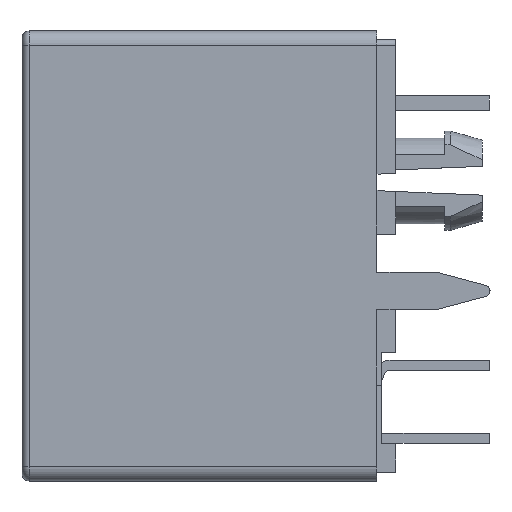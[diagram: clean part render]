
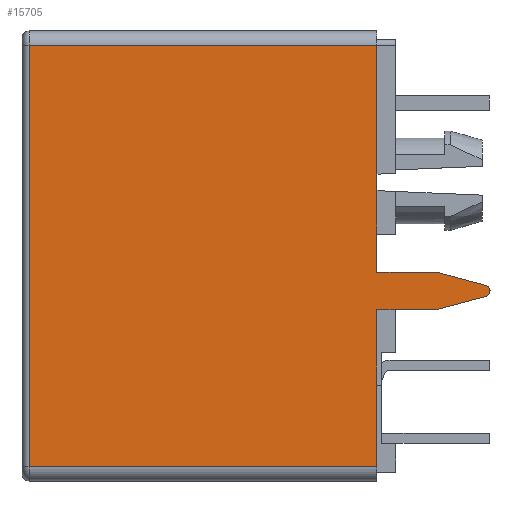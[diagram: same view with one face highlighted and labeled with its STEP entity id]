
A CAD part, left-side view. The second image highlights one B-rep face of the part: STEP entity #15705.
In plain terms, the highlighted planar face has unit normal (-1, 0, 0).
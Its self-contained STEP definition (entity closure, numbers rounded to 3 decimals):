
#1800=DIRECTION('',(0.,0.,-1.));
#1801=VECTOR('',#1800,14.6);
#1802=CARTESIAN_POINT('',(-6.465,5.842,23.25));
#1803=LINE('',#1802,#1801);
#1827=DIRECTION('',(0.,-1.,0.));
#1828=VECTOR('',#1827,12.05);
#1829=CARTESIAN_POINT('',(-6.465,5.842,8.65));
#1830=LINE('',#1829,#1828);
#1835=DIRECTION('',(0.,-0.966,-0.259));
#1836=VECTOR('',#1835,1.765);
#1837=CARTESIAN_POINT('',(-6.465,-8.278,
15.39));
#1838=LINE('',#1837,#1836);
#1839=DIRECTION('',(0.,0.966,-0.259));
#1840=VECTOR('',#1839,1.765);
#1841=CARTESIAN_POINT('',(-6.465,-9.983,
14.547));
#1842=LINE('',#1841,#1840);
#1847=DIRECTION('',(0.,1.,0.));
#1848=VECTOR('',#1847,12.05);
#1849=CARTESIAN_POINT('',(-6.465,-6.208,
23.25));
#1850=LINE('',#1849,#1848);
#1907=DIRECTION('',(0.,0.,-1.));
#1908=VECTOR('',#1907,5.44);
#1909=CARTESIAN_POINT('',(-6.465,-6.208,
14.09));
#1910=LINE('',#1909,#1908);
#1923=DIRECTION('',(0.,1.,0.));
#1924=VECTOR('',#1923,2.07);
#1925=CARTESIAN_POINT('',(-6.465,-8.278,
15.39));
#1926=LINE('',#1925,#1924);
#1939=DIRECTION('',(0.,0.,-1.));
#1940=VECTOR('',#1939,7.86);
#1941=CARTESIAN_POINT('',(-6.465,-6.208,
23.25));
#1942=LINE('',#1941,#1940);
#9481=CARTESIAN_POINT('',(-6.465,-9.931,
14.74));
#9482=DIRECTION('',(-1.,0.,0.));
#9483=DIRECTION('',(0.,-0.259,-0.966));
#9484=AXIS2_PLACEMENT_3D('',#9481,#9482,#9483);
#9511=DIRECTION('',(0.,-1.,0.));
#9512=VECTOR('',#9511,2.07);
#9513=CARTESIAN_POINT('',(-6.465,-6.208,
14.09));
#9514=LINE('',#9513,#9512);
#10265=CARTESIAN_POINT('',(-6.465,-8.278,
15.39));
#10266=CARTESIAN_POINT('',(-6.465,-9.983,
14.933));
#10267=VERTEX_POINT('',#10265);
#10268=VERTEX_POINT('',#10266);
#10269=CARTESIAN_POINT('',(-6.465,-6.208,
23.25));
#10270=CARTESIAN_POINT('',(-6.465,5.842,
23.25));
#10271=VERTEX_POINT('',#10269);
#10272=VERTEX_POINT('',#10270);
#10273=CARTESIAN_POINT('',(-6.465,5.842,
8.65));
#10274=VERTEX_POINT('',#10273);
#10275=CARTESIAN_POINT('',(-6.465,-6.208,
8.65));
#10276=VERTEX_POINT('',#10275);
#10277=CARTESIAN_POINT('',(-6.465,-6.208,
14.09));
#10278=VERTEX_POINT('',#10277);
#10279=CARTESIAN_POINT('',(-6.465,-8.278,
14.09));
#10280=VERTEX_POINT('',#10279);
#10281=CARTESIAN_POINT('',(-6.465,-9.983,
14.547));
#10282=VERTEX_POINT('',#10281);
#10283=CARTESIAN_POINT('',(-6.465,-6.208,
15.39));
#10284=VERTEX_POINT('',#10283);
#15680=CARTESIAN_POINT('',(-6.465,-2.145,
15.95));
#15681=DIRECTION('',(1.,0.,0.));
#15682=DIRECTION('',(0.,-1.,0.));
#15683=AXIS2_PLACEMENT_3D('',#15680,#15681,#15682);
#15684=PLANE('',#15683);
#15686=ORIENTED_EDGE('',*,*,#15685,.F.);
#15688=ORIENTED_EDGE('',*,*,#15687,.T.);
#15690=ORIENTED_EDGE('',*,*,#15689,.F.);
#15692=ORIENTED_EDGE('',*,*,#15691,.T.);
#15694=ORIENTED_EDGE('',*,*,#15693,.F.);
#15696=ORIENTED_EDGE('',*,*,#15695,.T.);
#15698=ORIENTED_EDGE('',*,*,#15697,.F.);
#15700=ORIENTED_EDGE('',*,*,#15699,.T.);
#15701=ORIENTED_EDGE('',*,*,#15671,.F.);
#15702=ORIENTED_EDGE('',*,*,#15618,.F.);
#15703=EDGE_LOOP('',(#15686,#15688,#15690,#15692,#15694,#15696,#15698,#15700,
#15701,#15702));
#15704=FACE_OUTER_BOUND('',#15703,.F.);
#15705=ADVANCED_FACE('',(#15704),#15684,.F.);
#9485=CIRCLE('',#9484,0.2);
#15618=EDGE_CURVE('',#10272,#10274,#1803,.T.);
#15671=EDGE_CURVE('',#10274,#10276,#1830,.T.);
#15685=EDGE_CURVE('',#10271,#10272,#1850,.T.);
#15687=EDGE_CURVE('',#10271,#10284,#1942,.T.);
#15689=EDGE_CURVE('',#10267,#10284,#1926,.T.);
#15691=EDGE_CURVE('',#10267,#10268,#1838,.T.);
#15693=EDGE_CURVE('',#10282,#10268,#9485,.T.);
#15695=EDGE_CURVE('',#10282,#10280,#1842,.T.);
#15697=EDGE_CURVE('',#10278,#10280,#9514,.T.);
#15699=EDGE_CURVE('',#10278,#10276,#1910,.T.);
